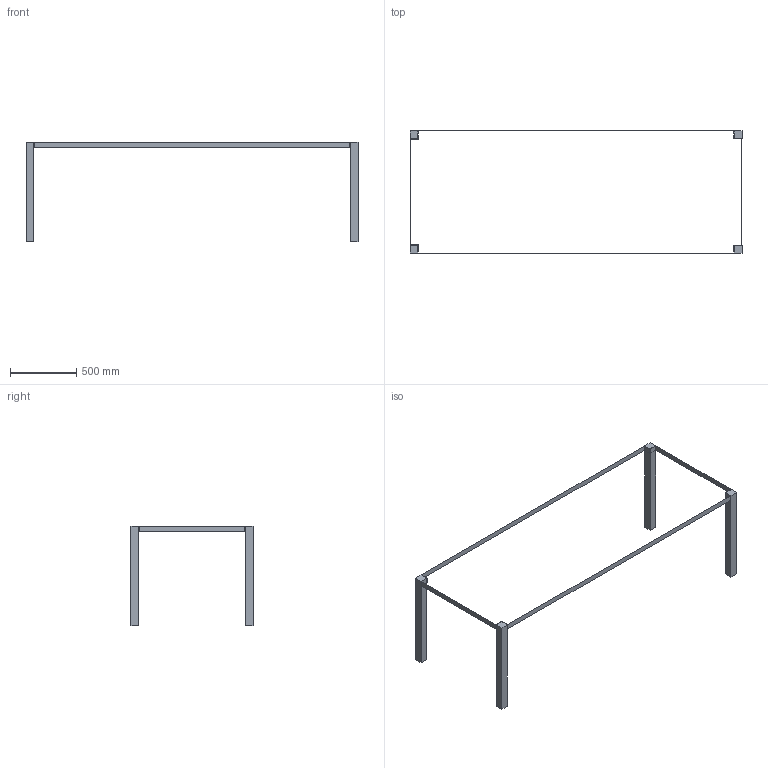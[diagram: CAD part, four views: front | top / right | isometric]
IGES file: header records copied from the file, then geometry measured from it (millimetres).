
Global section: file name: N:\e15\ ENTWICKLUNG\E15_PRODUKTE_DWG_DXF\neue_Produkte_2012\TA19_Sloane\3D\120207_Sloane_Isometrie.igs; native system: VectorWorks; preprocessor: HarmonyWare IGES v1.5.9; date: 20120207.150356; units: millimetre
Bounding box: 2500.01 x 920 x 750 mm (x, y, z)
Volume: 10800000 mm3; surface area: 1022400 mm2
Topology: 4 solids, 5 shells, 36 faces, 84 edges, 56 vertices
Faces by surface type: bspline 36
